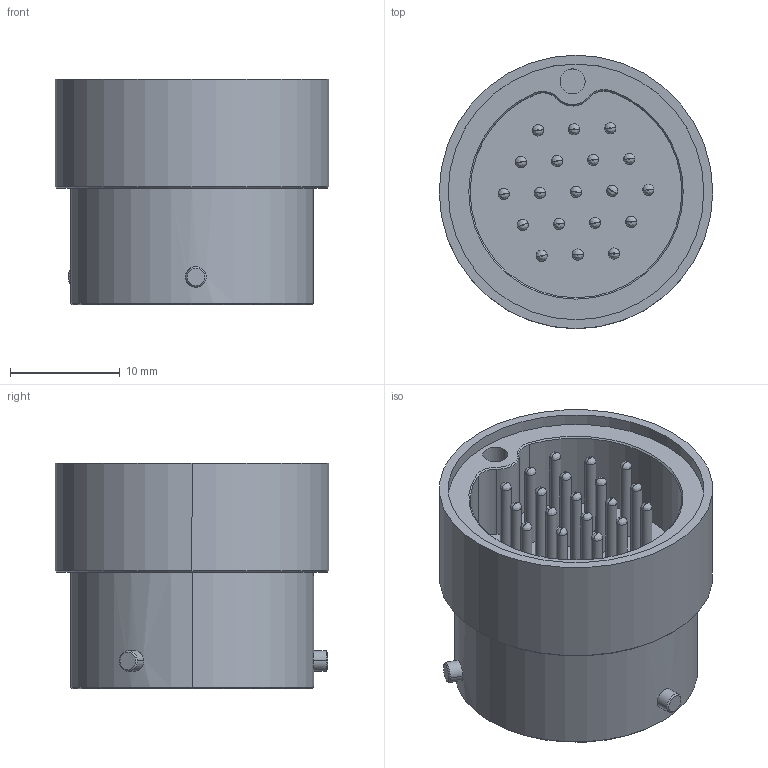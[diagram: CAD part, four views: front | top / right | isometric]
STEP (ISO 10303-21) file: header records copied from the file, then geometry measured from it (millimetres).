
FILE_DESCRIPTION (( 'STEP AP203' ), '1' );
FILE_NAME ('EAG_19C.stp', '2016-05-02T15:04:29', ( '' ), ( '' ), 'SwSTEP 2.0', 'SolidWorks 2012', '' );
FILE_SCHEMA (( 'CONFIG_CONTROL_DESIGN' ));
Length unit declared in the file: centimetre
Products named in the file (1): EAG_19C
Bounding box: 24.94 x 24.94 x 20.57 mm (x, y, z)
Volume: 3611.9 mm3; surface area: 4735.8 mm2
Topology: 1 solids, 3 shells, 268 faces, 631 edges, 416 vertices
Faces by surface type: cylinder 113, bspline 76, plane 63, cone 16
Entity records: 8894 total; most frequent: CARTESIAN_POINT 2790, DIRECTION 1321, ORIENTED_EDGE 1262, EDGE_CURVE 631, AXIS2_PLACEMENT_3D 583, VERTEX_POINT 416, CIRCLE 390, EDGE_LOOP 315
